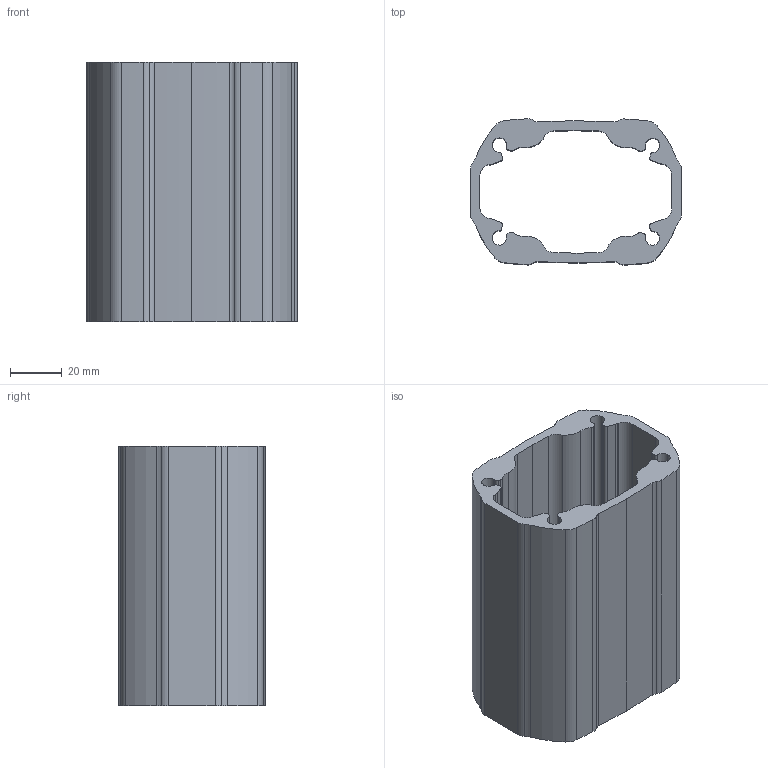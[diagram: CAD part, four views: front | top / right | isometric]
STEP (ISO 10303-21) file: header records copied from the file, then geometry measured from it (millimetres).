
FILE_DESCRIPTION (( 'STEP AP203' ), '1' );
FILE_NAME ('TP.060.P100mm.STEP', '2026-09-30T10:50:53', ( '' ), ( '' ), 'SwSTEP 2.0', 'SolidWorks 2015', '' );
FILE_SCHEMA (( 'CONFIG_CONTROL_DESIGN' ));
Length unit declared in the file: millimetre
Products named in the file (1): TP.060.P100mm
Bounding box: 81.09 x 56.24 x 100 mm (x, y, z)
Volume: 138125.6 mm3; surface area: 52771.5 mm2
Topology: 1 solids, 1 shells, 111 faces, 327 edges, 218 vertices
Faces by surface type: cylinder 63, bspline 28, plane 20
Entity records: 4180 total; most frequent: CARTESIAN_POINT 1205, ORIENTED_EDGE 654, DIRECTION 565, EDGE_CURVE 327, VERTEX_POINT 218, AXIS2_PLACEMENT_3D 210, VECTOR 145, LINE 145
